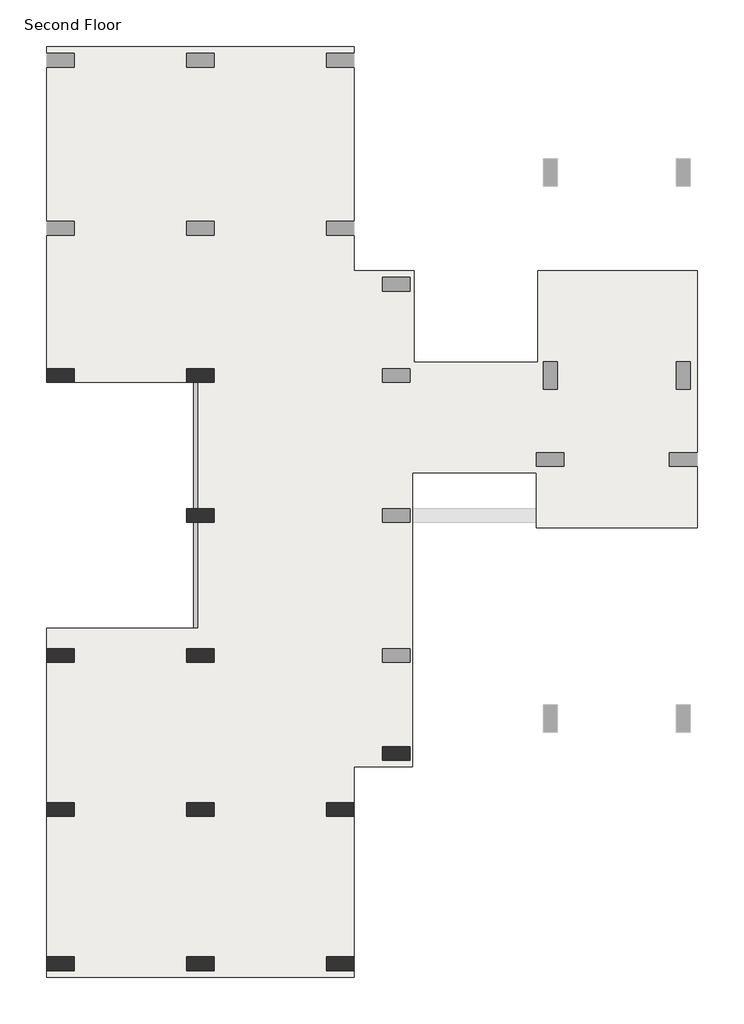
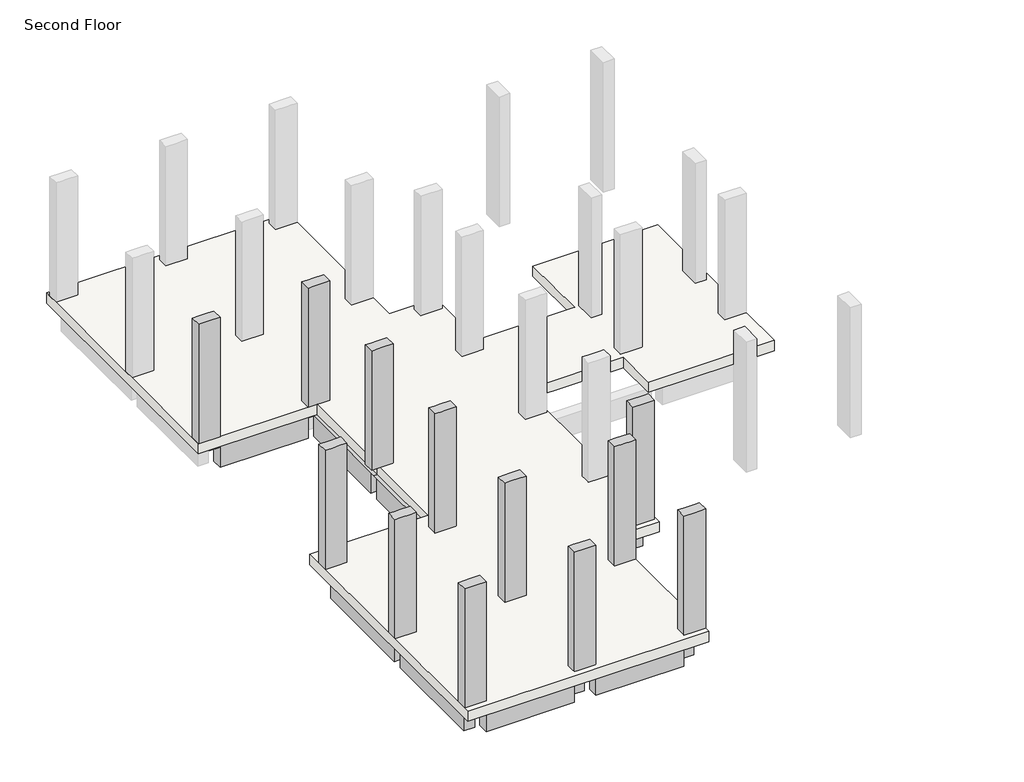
# One storey, part 1 of 2: 17 beams, 12 columns, 1 slab.
"""IFC4 building model written with IfcOpenShell, lengths in millimetres."""

import ifcopenshell
import ifcopenshell.guid

model = None  # the IFC model being written
_history = None  # IfcOwnerHistory: only IFC2X3 demands one
_inside = {}  # id of a spatial element -> (the spatial element, [elements in it])
_under = {}  # id of a project, library or spatial element -> (it, [spatial elements below it])
_declared = {}  # id of a project -> (the project, [libraries it declares])
_typed = {}  # id of a type object -> (the type object, [elements of that type])
_made_of = {}  # id of a material, layer set ... -> (it, [elements and type objects made of it])


def new_model(schema):
    """Start an empty IFC model of exactly this schema.

    Asked for "IFC4X3", IfcOpenShell would pick the latest addendum, in which some entities
    have other attributes; the version numbers below select the first issue.
    IFC2X3 requires an IfcOwnerHistory on every rooted entity: one is made here for all.
    """
    global model, _history
    if schema == "IFC4X3":
        model = ifcopenshell.file(schema_version=(4, 3, 0, 0))
    else:
        model = ifcopenshell.file(schema=schema)
    _inside.clear()
    _under.clear()
    _declared.clear()
    _typed.clear()
    _made_of.clear()
    _history = None
    if model.schema == "IFC2X3":
        org = make("IfcOrganization", Name="unknown")
        user = make(
            "IfcPersonAndOrganization",
            ThePerson=make("IfcPerson", FamilyName="unknown"),
            TheOrganization=org,
        )
        app = make(
            "IfcApplication",
            ApplicationDeveloper=org,
            Version="unknown",
            ApplicationFullName="unknown",
            ApplicationIdentifier="unknown",
        )
        _history = make(
            "IfcOwnerHistory",
            OwningUser=user,
            OwningApplication=app,
            ChangeAction="ADDED",
            CreationDate=0,
        )
    return model


def make(cls, **values):
    """One entity of the class cls with the attributes given. An attribute that is None is left unset."""
    return model.create_entity(
        cls, **{name: value for name, value in values.items() if value is not None}
    )


def rooted(cls, **values):
    """An entity with a GlobalId (a new one), such as an element, a storey or a relation."""
    return make(cls, GlobalId=ifcopenshell.guid.new(), OwnerHistory=_history, **values)


def si_unit(unit_type, name, prefix=None):
    """IfcSIUnit, for example si_unit("LENGTHUNIT", "METRE", prefix="MILLI")."""
    return make("IfcSIUnit", UnitType=unit_type, Prefix=prefix, Name=name)


def assignment(units):
    """IfcUnitAssignment: the units of a project."""
    return None if units is None else make("IfcUnitAssignment", Units=units)


def point(xyz):
    """IfcCartesianPoint."""
    return None if xyz is None else make("IfcCartesianPoint", Coordinates=xyz)


def direction(xyz):
    """IfcDirection."""
    return None if xyz is None else make("IfcDirection", DirectionRatios=xyz)


def frame(location, z_axis=None, x_axis=None):
    """IfcAxis2Placement3D, a coordinate frame: its origin and axes. An axis left out is left unset."""
    return make(
        "IfcAxis2Placement3D",
        Location=point(location),
        Axis=direction(z_axis),
        RefDirection=direction(x_axis),
    )


def origin():
    """The frame at (0, 0, 0) with its axes left unset."""
    return frame((0.0, 0.0, 0.0))


def place(relative_to, where):
    """IfcLocalPlacement: puts the frame where relative to a parent placement (None: the world)."""
    return make(
        "IfcLocalPlacement", PlacementRelTo=relative_to, RelativePlacement=where
    )


def context(
    kind, dimensions, precision=None, world=None, true_north=None, identifier=None
):
    """IfcGeometricRepresentationContext, for example the 3D "Model" context."""
    return make(
        "IfcGeometricRepresentationContext",
        ContextIdentifier=identifier,
        ContextType=kind,
        CoordinateSpaceDimension=dimensions,
        Precision=precision,
        WorldCoordinateSystem=world,
        TrueNorth=true_north,
    )


def project(units=None, contexts=None):
    """IfcProject with its units and contexts."""
    return rooted(
        "IfcProject",
        Name="project",
        RepresentationContexts=contexts,
        UnitsInContext=assignment(units),
    )


def spatial(cls, under=None, at=None, **own):
    """A site, building, storey or space (cls), placed at a placement, below another one or the project."""
    s = rooted(cls, ObjectPlacement=at, **own)
    if under is not None:
        _under.setdefault(under.id(), (under, []))[1].append(s)
    return s


def faces_of(points, faces, orient=None, outer=None):
    """IfcFace entities. A face is a list of loops; a loop is a list of indices into points, from 0.

    orient and outer hold one flag for each loop. By default every Orientation is true, the
    first loop of a face is its IfcFaceOuterBound and the others are IfcFaceBound.
    """
    made = []
    for i, loops in enumerate(faces):
        bounds = []
        for j, loop in enumerate(loops):
            is_outer = j == 0 if outer is None else outer[i][j]
            bounds.append(
                make(
                    "IfcFaceOuterBound" if is_outer else "IfcFaceBound",
                    Bound=make("IfcPolyLoop", Polygon=[points[k] for k in loop]),
                    Orientation=True if orient is None else orient[i][j],
                )
            )
        made.append(make("IfcFace", Bounds=bounds))
    return made


def faceted_brep(points, faces, orient=None, outer=None, voids=None):
    """IfcFacetedBrep: a solid bounded by flat faces; with voids (closed shells), ...WithVoids."""
    shared = [point(p) for p in points]
    hull = make("IfcClosedShell", CfsFaces=faces_of(shared, faces, orient, outer))
    if voids is None:
        return make("IfcFacetedBrep", Outer=hull)
    return make(
        "IfcFacetedBrepWithVoids",
        Outer=hull,
        Voids=[
            make(cls, CfsFaces=faces_of(shared, fs, o, b)) for cls, fs, o, b in voids
        ],
    )


def shape(context_of_items, identifier, shape_type, items):
    """IfcShapeRepresentation: the items that make up one representation, for example the "Body"."""
    return make(
        "IfcShapeRepresentation",
        ContextOfItems=context_of_items,
        RepresentationIdentifier=identifier,
        RepresentationType=shape_type,
        Items=items,
    )


def made_of(thing, what):
    """Note that an element or type object is made of a material, layer set ...; save() writes the relation."""
    if what is not None:
        _made_of.setdefault(what.id(), (what, []))[1].append(thing)
    return thing


def element(
    cls,
    number,
    at=None,
    inside=None,
    cuts=None,
    type_object=None,
    material=None,
    context=None,
    identifier="Body",
    shape_type=None,
    held_by="IfcProductDefinitionShape",
    body=None,
    shapes=None,
    **own,
):
    """One element of the class cls, such as IfcWall. Its Tag is "e" and its number.

    at: its placement. inside: the storey or other place that contains it. cuts: it is an
    opening in that element (IfcRelVoidsElement). A single representation is given by context,
    identifier, shape_type and body (its items); several are given by shapes. held_by: the class
    of the entity that holds the representations. save() writes the other relations.
    """
    e = rooted(cls, Tag="e%d" % number, ObjectPlacement=at, **own)
    if body is not None:
        shapes = [shape(context, identifier, shape_type, body)]
    if shapes is not None:
        e.Representation = make(held_by, Representations=shapes)
    if inside is not None:
        _inside.setdefault(inside.id(), (inside, []))[1].append(e)
    if cuts is not None:
        rooted(
            "IfcRelVoidsElement", RelatingBuildingElement=cuts, RelatedOpeningElement=e
        )
    if type_object is not None:
        _typed.setdefault(type_object.id(), (type_object, []))[1].append(e)
    return made_of(e, material)


def aggregate(whole, parts):
    """IfcRelAggregates: a whole, such as a stair, and the parts it consists of."""
    return rooted("IfcRelAggregates", RelatingObject=whole, RelatedObjects=parts)


def save(model, path):
    """Write the relations noted so far, then the file.

    IfcRelAggregates (storeys below a building ...), IfcRelContainedInSpatialStructure (elements
    in a storey), IfcRelDefinesByType, IfcRelAssociatesMaterial and IfcRelDeclares: one each for
    every whole, place, type object, material and project.
    """
    for whole, parts in _under.values():
        aggregate(whole, parts)
    for where, things in _inside.values():
        rooted(
            "IfcRelContainedInSpatialStructure",
            RelatedElements=things,
            RelatingStructure=where,
        )
    for kind, things in _typed.values():
        rooted("IfcRelDefinesByType", RelatedObjects=things, RelatingType=kind)
    for what, things in _made_of.values():
        rooted("IfcRelAssociatesMaterial", RelatedObjects=things, RelatingMaterial=what)
    for by, libraries in _declared.values():
        rooted("IfcRelDeclares", RelatingContext=by, RelatedDefinitions=libraries)
    model.write(path)


model = new_model("IFC4")

# Units and contexts
model_context = context("Model", 3, world=origin())
ifc_project = project(units=[si_unit("LENGTHUNIT", "METRE", prefix="MILLI")], contexts=[model_context])

# Site, building, storey
site = spatial("IfcSite", under=ifc_project)
building = spatial("IfcBuilding", under=site)
storey = spatial("IfcBuildingStorey", under=building, Name="Second Floor", Elevation=3810.0)

# Beams
placement = place(None, origin())
element("IfcBeam", 1, ObjectType="M_Concrete-Rectangular Beam : 300 x 600mm", at=placement, inside=storey, context=model_context, shape_type="Brep", body=[
    faceted_brep([(-9933.3472303, 7869.016665, 3510.0), (-9933.3472303, 7719.016665, 3510.0), (-9933.3472303, 4821.016665, 3510.0), (-9783.3472303, 4821.016665, 3510.0), (-9783.3472303, 4971.016665, 3510.0), (-9633.3472303, 4971.016665, 3510.0), (-9633.3472303, 7719.016665, 3510.0), (-9633.3472303, 7869.016665, 3510.0), (-9783.3472303, 7869.016665, 3510.0), (-9633.3472303, 7719.016665, 2910.0), (-9633.3472303, 7719.016665, 3505.2), (-9633.3472303, 7869.016665, 3505.2), (-9633.3472303, 4971.016665, 2910.0), (-9933.3472303, 4971.016665, 2910.0), (-9933.3472303, 7719.016665, 2910.0), (-9933.3472303, 7869.016665, 3505.2), (-9933.3472303, 7719.016665, 3505.2), (-9933.3472303, 4971.016665, 3505.2), (-9933.3472303, 4821.016665, 3505.2), (-9783.3472303, 4971.016665, 3505.2), (-9783.3472303, 7869.016665, 3505.2), (-9783.3472303, 4821.016665, 3505.2)], [[[0, 1, 2, 3, 4, 5, 6, 7, 8]], [[9, 10, 11, 7, 6, 5, 12]], [[12, 13, 14, 9]], [[2, 1, 0, 15, 16, 14, 13, 17, 18]], [[5, 4, 19, 17, 13, 12]], [[16, 10, 9, 14]], [[10, 16, 15, 20, 11]], [[17, 19, 21, 18]], [[0, 8, 7, 11, 20, 15]], [[3, 2, 18, 21]], [[4, 3, 21, 19]]]),
])
element("IfcBeam", 2, ObjectType="M_Concrete-Rectangular Beam : 300 x 600mm", at=placement, inside=storey, context=model_context, shape_type="Brep", body=[
    faceted_brep([(-12681.3472303, 8019.016665, 3510.0), (-12681.3472303, 7869.016665, 3510.0), (-12831.3472303, 7869.016665, 3510.0), (-12831.3472303, 7719.016665, 3510.0), (-9933.3472303, 7719.016665, 3510.0), (-9933.3472303, 7869.016665, 3510.0), (-9933.3472303, 8019.016665, 3510.0), (-12531.3472303, 7719.016665, 3505.2), (-12531.3472303, 7719.016665, 2910.0), (-10083.3472303, 7719.016665, 2910.0), (-10083.3472303, 7719.016665, 3505.2), (-9933.3472303, 7719.016665, 3505.2), (-12831.3472303, 7719.016665, 3505.2), (-12531.3472303, 8019.016665, 2910.0), (-10083.3472303, 8019.016665, 2910.0), (-12681.3472303, 8019.016665, 3505.2), (-9933.3472303, 8019.016665, 3505.2), (-10083.3472303, 8019.016665, 3505.2), (-12531.3472303, 8019.016665, 3505.2), (-9933.3472303, 7869.016665, 3505.2), (-12681.3472303, 7869.016665, 3505.2), (-12831.3472303, 7869.016665, 3505.2)], [[[0, 1, 2, 3, 4, 5, 6]], [[7, 8, 9, 10, 11, 4, 3, 12]], [[8, 13, 14, 9]], [[15, 0, 6, 16, 17, 14, 13, 18]], [[6, 5, 4, 11, 19, 16]], [[1, 0, 15, 20]], [[7, 18, 13, 8]], [[18, 7, 12, 21, 20, 15]], [[17, 10, 9, 14]], [[10, 17, 16, 19, 11]], [[3, 2, 21, 12]], [[2, 1, 20, 21]]]),
])
element("IfcBeam", 3, ObjectType="M_Concrete-Rectangular Beam : 300 x 600mm", at=placement, inside=storey, context=model_context, shape_type="Brep", body=[
    faceted_brep([(-9783.3472303, 1623.016665, 3510.0), (-9633.3472303, 1623.016665, 3510.0), (-5666.3472303, 1623.016665, 3510.0), (-5516.3472303, 1623.016665, 3510.0), (-5516.3472303, 1773.016665, 3510.0), (-5666.3472303, 1773.016665, 3510.0), (-5666.3472303, 1923.016665, 3510.0), (-9633.3472303, 1923.016665, 3510.0), (-9783.3472303, 1923.016665, 3510.0), (-9783.3472303, 1773.016665, 3510.0), (-9483.3472303, 1923.016665, 2910.0), (-9483.3472303, 1923.016665, 3505.2), (-9783.3472303, 1923.016665, 3505.2), (-5666.3472303, 1923.016665, 3505.2), (-5816.3472303, 1923.016665, 3505.2), (-5816.3472303, 1923.016665, 2910.0), (-9483.3472303, 1623.016665, 2910.0), (-5816.3472303, 1623.016665, 2910.0), (-9783.3472303, 1623.016665, 3505.2), (-9483.3472303, 1623.016665, 3505.2), (-5816.3472303, 1623.016665, 3505.2), (-5516.3472303, 1623.016665, 3505.2), (-5666.3472303, 1773.016665, 3505.2), (-9783.3472303, 1773.016665, 3505.2), (-5516.3472303, 1773.016665, 3505.2)], [[[0, 1, 2, 3, 4, 5, 6, 7, 8, 9]], [[10, 11, 12, 8, 7, 6, 13, 14, 15]], [[16, 10, 15, 17]], [[3, 2, 1, 0, 18, 19, 16, 17, 20, 21]], [[6, 5, 22, 13]], [[19, 11, 10, 16]], [[11, 19, 18, 23, 12]], [[14, 20, 17, 15]], [[20, 14, 13, 22, 24, 21]], [[0, 9, 8, 12, 23, 18]], [[4, 3, 21, 24]], [[5, 4, 24, 22]]]),
])
element("IfcBeam", 4, ObjectType="M_Concrete-Rectangular Beam : 300 x 600mm", at=placement, inside=storey, context=model_context, shape_type="Brep", body=[
    faceted_brep([(-9933.3472303, 4821.016665, 3510.0), (-9933.3472303, 1923.016665, 3510.0), (-9933.3472303, 1773.016665, 3510.0), (-9783.3472303, 1773.016665, 3510.0), (-9783.3472303, 1923.016665, 3510.0), (-9633.3472303, 1923.016665, 3510.0), (-9633.3472303, 4671.016665, 3510.0), (-9783.3472303, 4671.016665, 3510.0), (-9783.3472303, 4821.016665, 3510.0), (-9633.3472303, 1923.016665, 2910.0), (-9633.3472303, 4671.016665, 2910.0), (-9933.3472303, 1923.016665, 2910.0), (-9933.3472303, 4671.016665, 2910.0), (-9933.3472303, 4821.016665, 3505.2), (-9933.3472303, 4671.016665, 3505.2), (-9933.3472303, 1923.016665, 3505.2), (-9933.3472303, 1773.016665, 3505.2), (-9783.3472303, 4671.016665, 3505.2), (-9783.3472303, 1923.016665, 3505.2), (-9783.3472303, 4821.016665, 3505.2), (-9783.3472303, 1773.016665, 3505.2)], [[[0, 1, 2, 3, 4, 5, 6, 7, 8]], [[6, 5, 9, 10]], [[9, 11, 12, 10]], [[2, 1, 0, 13, 14, 12, 11, 15, 16]], [[7, 6, 10, 12, 14, 17]], [[5, 4, 18, 15, 11, 9]], [[17, 14, 13, 19]], [[15, 18, 20, 16]], [[0, 8, 19, 13]], [[3, 2, 16, 20]], [[8, 7, 17, 19]], [[4, 3, 20, 18]]]),
])
element("IfcBeam", 5, ObjectType="M_Concrete-Rectangular Beam : 300 x 600mm", at=placement, inside=storey, context=model_context, shape_type="Brep", body=[
    faceted_brep([(-5366.3472303, -360.983335, 3510.0), (-5366.3472303, 1773.016665, 3510.0), (-5516.3472303, 1773.016665, 3510.0), (-5516.3472303, 1623.016665, 3510.0), (-5666.3472303, 1623.016665, 3510.0), (-5666.3472303, -210.983335, 3510.0), (-5666.3472303, -360.983335, 3510.0), (-5516.3472303, -360.983335, 3510.0), (-5666.3472303, 1623.016665, 2910.0), (-5666.3472303, -210.983335, 2910.0), (-5666.3472303, -210.983335, 3505.2), (-5666.3472303, -360.983335, 3505.2), (-5366.3472303, 1623.016665, 2910.0), (-5366.3472303, -210.983335, 2910.0), (-5366.3472303, -360.983335, 3505.2), (-5366.3472303, -210.983335, 3505.2), (-5366.3472303, 1623.016665, 3505.2), (-5366.3472303, 1773.016665, 3505.2), (-5516.3472303, 1623.016665, 3505.2), (-5516.3472303, 1773.016665, 3505.2), (-5516.3472303, -360.983335, 3505.2)], [[[0, 1, 2, 3, 4, 5, 6, 7]], [[6, 5, 4, 8, 9, 10, 11]], [[8, 12, 13, 9]], [[1, 0, 14, 15, 13, 12, 16, 17]], [[4, 3, 18, 16, 12, 8]], [[16, 18, 19, 17]], [[15, 10, 9, 13]], [[10, 15, 14, 20, 11]], [[2, 1, 17, 19]], [[0, 7, 6, 11, 20, 14]], [[3, 2, 19, 18]]]),
])
element("IfcBeam", 6, ObjectType="M_Concrete-Rectangular Beam : 300 x 600mm", at=placement, inside=storey, context=model_context, shape_type="Brep", body=[
    faceted_brep([(-6885.3472303, -510.983335, 3510.0), (-6585.3472303, -510.983335, 3510.0), (-5516.3472303, -510.983335, 3510.0), (-5516.3472303, -360.983335, 3510.0), (-5666.3472303, -360.983335, 3510.0), (-5666.3472303, -210.983335, 3510.0), (-6885.3472303, -210.983335, 3510.0), (-6885.3472303, -210.983335, 2910.0), (-5666.3472303, -210.983335, 3505.2), (-5816.3472303, -210.983335, 3505.2), (-5816.3472303, -210.983335, 2910.0), (-6885.3472303, -510.983335, 2910.0), (-5816.3472303, -510.983335, 2910.0), (-6585.3472303, -510.983335, 2910.0), (-5816.3472303, -510.983335, 3505.2), (-5516.3472303, -510.983335, 3505.2), (-5516.3472303, -360.983335, 3505.2), (-5666.3472303, -360.983335, 3505.2)], [[[0, 1, 2, 3, 4, 5, 6]], [[7, 6, 5, 8, 9, 10]], [[11, 7, 10, 12, 13]], [[2, 1, 0, 11, 13, 12, 14, 15]], [[3, 2, 15, 16]], [[0, 6, 7, 11]], [[5, 4, 17, 8]], [[4, 3, 16, 17]], [[9, 14, 12, 10]], [[14, 9, 8, 17, 16, 15]]]),
])
element("IfcBeam", 7, ObjectType="M_Concrete-Rectangular Beam : 300 x 600mm", at=placement, inside=storey, context=model_context, shape_type="Brep", body=[
    faceted_brep([(-6885.3472303, -1579.983335, 3510.0), (-6735.3472303, -1579.983335, 3510.0), (-6585.3472303, -1579.983335, 3510.0), (-6585.3472303, -510.983335, 3510.0), (-6885.3472303, -510.983335, 3510.0), (-6885.3472303, -1429.983335, 3510.0), (-6885.3472303, -510.983335, 2910.0), (-6885.3472303, -1429.983335, 2910.0), (-6885.3472303, -1429.983335, 3505.2), (-6885.3472303, -1579.983335, 3505.2), (-6585.3472303, -510.983335, 2910.0), (-6585.3472303, -1429.983335, 2910.0), (-6585.3472303, -1579.983335, 3505.2), (-6585.3472303, -1429.983335, 3505.2), (-6735.3472303, -1579.983335, 3505.2)], [[[0, 1, 2, 3, 4, 5]], [[0, 5, 4, 6, 7, 8, 9]], [[6, 10, 11, 7]], [[3, 2, 12, 13, 11, 10]], [[2, 1, 0, 9, 14, 12]], [[4, 3, 10, 6]], [[13, 8, 7, 11]], [[8, 13, 12, 14, 9]]]),
])
element("IfcBeam", 8, ObjectType="M_Concrete-Rectangular Beam : 300 x 600mm", at=placement, inside=storey, context=model_context, shape_type="Brep", body=[
    faceted_brep([(-6585.3472303, -4932.983335, 3510.0), (-6585.3472303, -1579.983335, 3510.0), (-6735.3472303, -1579.983335, 3510.0), (-6735.3472303, -1729.983335, 3510.0), (-6885.3472303, -1729.983335, 3510.0), (-6885.3472303, -4782.983335, 3510.0), (-6885.3472303, -4932.983335, 3510.0), (-6735.3472303, -4932.983335, 3510.0), (-6885.3472303, -1729.983335, 2910.0), (-6885.3472303, -4782.983335, 2910.0), (-6885.3472303, -4782.983335, 3505.2), (-6885.3472303, -4932.983335, 3505.2), (-6585.3472303, -1729.983335, 2910.0), (-6585.3472303, -4782.983335, 2910.0), (-6585.3472303, -4932.983335, 3505.2), (-6585.3472303, -4782.983335, 3505.2), (-6585.3472303, -1729.983335, 3505.2), (-6585.3472303, -1579.983335, 3505.2), (-6735.3472303, -1579.983335, 3505.2), (-6735.3472303, -4932.983335, 3505.2), (-6735.3472303, -1729.983335, 3505.2)], [[[0, 1, 2, 3, 4, 5, 6, 7]], [[4, 8, 9, 10, 11, 6, 5]], [[9, 8, 12, 13]], [[1, 0, 14, 15, 13, 12, 16, 17]], [[1, 17, 18, 2]], [[0, 7, 6, 11, 19, 14]], [[4, 3, 20, 16, 12, 8]], [[17, 16, 20, 18]], [[15, 10, 9, 13]], [[10, 15, 14, 19, 11]], [[20, 3, 2, 18]]]),
])
element("IfcBeam", 9, ObjectType="M_Concrete-Rectangular Beam : 300 x 600mm", at=placement, inside=storey, context=model_context, shape_type="Brep", body=[
    faceted_brep([(-9783.3472303, -5082.983335, 3510.0), (-6735.3472303, -5082.983335, 3510.0), (-6735.3472303, -4932.983335, 3510.0), (-6885.3472303, -4932.983335, 3510.0), (-6885.3472303, -4782.983335, 3510.0), (-9633.3472303, -4782.983335, 3510.0), (-9783.3472303, -4782.983335, 3510.0), (-9783.3472303, -4932.983335, 3510.0), (-9483.3472303, -4782.983335, 2910.0), (-9483.3472303, -4782.983335, 3505.2), (-9783.3472303, -4782.983335, 3505.2), (-6885.3472303, -4782.983335, 3505.2), (-7035.3472303, -4782.983335, 3505.2), (-7035.3472303, -4782.983335, 2910.0), (-9483.3472303, -5082.983335, 2910.0), (-7035.3472303, -5082.983335, 2910.0), (-9783.3472303, -5082.983335, 3505.2), (-9483.3472303, -5082.983335, 3505.2), (-7035.3472303, -5082.983335, 3505.2), (-6735.3472303, -5082.983335, 3505.2), (-6885.3472303, -4932.983335, 3505.2), (-9783.3472303, -4932.983335, 3505.2), (-6735.3472303, -4932.983335, 3505.2)], [[[0, 1, 2, 3, 4, 5, 6, 7]], [[8, 9, 10, 6, 5, 4, 11, 12, 13]], [[14, 8, 13, 15]], [[1, 0, 16, 17, 14, 15, 18, 19]], [[4, 3, 20, 11]], [[17, 9, 8, 14]], [[9, 17, 16, 21, 10]], [[12, 18, 15, 13]], [[18, 12, 11, 20, 22, 19]], [[0, 7, 6, 10, 21, 16]], [[2, 1, 19, 22]], [[3, 2, 22, 20]]]),
])
element("IfcBeam", 10, ObjectType="M_Concrete-Rectangular Beam : 300 x 600mm", at=placement, inside=storey, context=model_context, shape_type="Brep", body=[
    faceted_brep([(-9933.3472303, -1579.983335, 3510.0), (-9933.3472303, -1729.983335, 3510.0), (-9933.3472303, -4782.983335, 3510.0), (-9933.3472303, -4932.983335, 3510.0), (-9783.3472303, -4932.983335, 3510.0), (-9783.3472303, -4782.983335, 3510.0), (-9633.3472303, -4782.983335, 3510.0), (-9633.3472303, -1729.983335, 3510.0), (-9633.3472303, -1579.983335, 3510.0), (-9783.3472303, -1579.983335, 3510.0), (-9633.3472303, -4782.983335, 2910.0), (-9633.3472303, -1729.983335, 2910.0), (-9633.3472303, -1729.983335, 3505.2), (-9633.3472303, -1579.983335, 3505.2), (-9933.3472303, -4782.983335, 2910.0), (-9933.3472303, -1729.983335, 2910.0), (-9933.3472303, -1579.983335, 3505.2), (-9933.3472303, -1729.983335, 3505.2), (-9933.3472303, -4782.983335, 3505.2), (-9933.3472303, -4932.983335, 3505.2), (-9783.3472303, -1579.983335, 3505.2), (-9783.3472303, -4932.983335, 3505.2), (-9783.3472303, -4782.983335, 3505.2)], [[[0, 1, 2, 3, 4, 5, 6, 7, 8, 9]], [[8, 7, 6, 10, 11, 12, 13]], [[11, 10, 14, 15]], [[3, 2, 1, 0, 16, 17, 15, 14, 18, 19]], [[0, 9, 8, 13, 20, 16]], [[4, 3, 19, 21]], [[6, 5, 22, 18, 14, 10]], [[5, 4, 21, 22]], [[17, 12, 11, 15]], [[12, 17, 16, 20, 13]], [[18, 22, 21, 19]]]),
])
element("IfcBeam", 11, ObjectType="M_Concrete-Rectangular Beam : 300 x 600mm", at=placement, inside=storey, context=model_context, shape_type="Brep", body=[
    faceted_brep([(-6885.3472303, -1579.983335, 3510.0), (-6885.3472303, -1429.983335, 3510.0), (-9633.3472303, -1429.983335, 3510.0), (-9783.3472303, -1429.983335, 3510.0), (-9783.3472303, -1579.983335, 3510.0), (-9633.3472303, -1579.983335, 3510.0), (-9633.3472303, -1729.983335, 3510.0), (-6885.3472303, -1729.983335, 3510.0), (-6735.3472303, -1729.983335, 3510.0), (-6735.3472303, -1579.983335, 3510.0), (-9633.3472303, -1729.983335, 3505.2), (-9483.3472303, -1729.983335, 3505.2), (-9483.3472303, -1729.983335, 2910.0), (-7035.3472303, -1729.983335, 2910.0), (-7035.3472303, -1729.983335, 3505.2), (-6735.3472303, -1729.983335, 3505.2), (-9483.3472303, -1429.983335, 2910.0), (-7035.3472303, -1429.983335, 2910.0), (-9483.3472303, -1429.983335, 3505.2), (-9783.3472303, -1429.983335, 3505.2), (-6885.3472303, -1429.983335, 3505.2), (-7035.3472303, -1429.983335, 3505.2), (-6885.3472303, -1579.983335, 3505.2), (-9633.3472303, -1579.983335, 3505.2), (-9783.3472303, -1579.983335, 3505.2), (-6735.3472303, -1579.983335, 3505.2)], [[[0, 1, 2, 3, 4, 5, 6, 7, 8, 9]], [[6, 10, 11, 12, 13, 14, 15, 8, 7]], [[12, 16, 17, 13]], [[16, 18, 19, 3, 2, 1, 20, 21, 17]], [[1, 0, 22, 20]], [[6, 5, 23, 10]], [[11, 18, 16, 12]], [[18, 11, 10, 23, 24, 19]], [[21, 14, 13, 17]], [[14, 21, 20, 22, 25, 15]], [[4, 3, 19, 24]], [[9, 8, 15, 25]], [[0, 9, 25, 22]], [[5, 4, 24, 23]]]),
])
element("IfcBeam", 12, ObjectType="M_Concrete-Rectangular Beam : 300 x 600mm", at=placement, inside=storey, context=model_context, shape_type="Brep", body=[
    faceted_brep([(-9933.3472303, 1773.016665, 3510.0), (-9933.3472303, 1623.016665, 3510.0), (-9933.3472303, -1429.983335, 3510.0), (-9933.3472303, -1579.983335, 3510.0), (-9783.3472303, -1579.983335, 3510.0), (-9783.3472303, -1429.983335, 3510.0), (-9633.3472303, -1429.983335, 3510.0), (-9633.3472303, 1623.016665, 3510.0), (-9783.3472303, 1623.016665, 3510.0), (-9783.3472303, 1773.016665, 3510.0), (-9633.3472303, -1429.983335, 2910.0), (-9633.3472303, 1623.016665, 2910.0), (-9933.3472303, -1429.983335, 2910.0), (-9933.3472303, 1623.016665, 2910.0), (-9933.3472303, 1773.016665, 3505.2), (-9933.3472303, 1623.016665, 3505.2), (-9933.3472303, -1429.983335, 3505.2), (-9933.3472303, -1579.983335, 3505.2), (-9783.3472303, 1773.016665, 3505.2), (-9783.3472303, -1579.983335, 3505.2), (-9783.3472303, 1623.016665, 3505.2), (-9783.3472303, -1429.983335, 3505.2)], [[[0, 1, 2, 3, 4, 5, 6, 7, 8, 9]], [[7, 6, 10, 11]], [[11, 10, 12, 13]], [[3, 2, 1, 0, 14, 15, 13, 12, 16, 17]], [[0, 9, 18, 14]], [[4, 3, 17, 19]], [[8, 7, 11, 13, 15, 20]], [[9, 8, 20, 18]], [[6, 5, 21, 16, 12, 10]], [[5, 4, 19, 21]], [[20, 15, 14, 18]], [[16, 21, 19, 17]]]),
])
element("IfcBeam", 13, ObjectType="M_Concrete-Rectangular Beam : 300 x 600mm", at=placement, inside=storey, context=model_context, shape_type="Brep", body=[
    faceted_brep([(-12831.3472303, -5082.983335, 3510.0), (-9783.3472303, -5082.983335, 3510.0), (-9783.3472303, -4932.983335, 3510.0), (-9933.3472303, -4932.983335, 3510.0), (-9933.3472303, -4782.983335, 3510.0), (-12681.3472303, -4782.983335, 3510.0), (-12831.3472303, -4782.983335, 3510.0), (-12831.3472303, -4932.983335, 3510.0), (-12531.3472303, -4782.983335, 2910.0), (-12531.3472303, -4782.983335, 3505.2), (-12831.3472303, -4782.983335, 3505.2), (-9933.3472303, -4782.983335, 3505.2), (-10083.3472303, -4782.983335, 3505.2), (-10083.3472303, -4782.983335, 2910.0), (-12531.3472303, -5082.983335, 2910.0), (-10083.3472303, -5082.983335, 2910.0), (-12831.3472303, -5082.983335, 3505.2), (-12531.3472303, -5082.983335, 3505.2), (-10083.3472303, -5082.983335, 3505.2), (-9783.3472303, -5082.983335, 3505.2), (-9933.3472303, -4932.983335, 3505.2), (-12831.3472303, -4932.983335, 3505.2), (-9783.3472303, -4932.983335, 3505.2)], [[[0, 1, 2, 3, 4, 5, 6, 7]], [[8, 9, 10, 6, 5, 4, 11, 12, 13]], [[14, 8, 13, 15]], [[1, 0, 16, 17, 14, 15, 18, 19]], [[4, 3, 20, 11]], [[17, 9, 8, 14]], [[9, 17, 16, 21, 10]], [[12, 18, 15, 13]], [[18, 12, 11, 20, 22, 19]], [[0, 7, 6, 10, 21, 16]], [[2, 1, 19, 22]], [[3, 2, 22, 20]]]),
])
element("IfcBeam", 14, ObjectType="M_Concrete-Rectangular Beam : 300 x 600mm", at=placement, inside=storey, context=model_context, shape_type="Brep", body=[
    faceted_brep([(-12981.3472303, -1579.983335, 3510.0), (-12981.3472303, -4932.983335, 3510.0), (-12831.3472303, -4932.983335, 3510.0), (-12831.3472303, -4782.983335, 3510.0), (-12681.3472303, -4782.983335, 3510.0), (-12681.3472303, -1729.983335, 3510.0), (-12681.3472303, -1579.983335, 3510.0), (-12831.3472303, -1579.983335, 3510.0), (-12681.3472303, -4782.983335, 2910.0), (-12681.3472303, -1729.983335, 2910.0), (-12681.3472303, -1729.983335, 3505.2), (-12681.3472303, -1579.983335, 3505.2), (-12981.3472303, -4782.983335, 2910.0), (-12981.3472303, -1729.983335, 2910.0), (-12981.3472303, -1579.983335, 3505.2), (-12981.3472303, -1729.983335, 3505.2), (-12981.3472303, -4782.983335, 3505.2), (-12981.3472303, -4932.983335, 3505.2), (-12831.3472303, -1579.983335, 3505.2), (-12831.3472303, -4932.983335, 3505.2), (-12831.3472303, -4782.983335, 3505.2)], [[[0, 1, 2, 3, 4, 5, 6, 7]], [[6, 5, 4, 8, 9, 10, 11]], [[9, 8, 12, 13]], [[1, 0, 14, 15, 13, 12, 16, 17]], [[0, 7, 6, 11, 18, 14]], [[2, 1, 17, 19]], [[4, 3, 20, 16, 12, 8]], [[3, 2, 19, 20]], [[15, 10, 9, 13]], [[10, 15, 14, 18, 11]], [[16, 20, 19, 17]]]),
])
element("IfcBeam", 15, ObjectType="M_Concrete-Rectangular Beam : 300 x 600mm", at=placement, inside=storey, context=model_context, shape_type="Brep", body=[
    faceted_brep([(-12681.3472303, -1579.983335, 3510.0), (-12681.3472303, -1729.983335, 3510.0), (-9933.3472303, -1729.983335, 3510.0), (-9933.3472303, -1579.983335, 3510.0), (-9933.3472303, -1429.983335, 3510.0), (-12681.3472303, -1429.983335, 3510.0), (-12831.3472303, -1429.983335, 3510.0), (-12831.3472303, -1579.983335, 3510.0), (-12681.3472303, -1729.983335, 3505.2), (-12531.3472303, -1729.983335, 3505.2), (-12531.3472303, -1729.983335, 2910.0), (-10083.3472303, -1729.983335, 2910.0), (-10083.3472303, -1729.983335, 3505.2), (-9933.3472303, -1729.983335, 3505.2), (-12531.3472303, -1429.983335, 2910.0), (-10083.3472303, -1429.983335, 2910.0), (-12531.3472303, -1429.983335, 3505.2), (-12831.3472303, -1429.983335, 3505.2), (-9933.3472303, -1429.983335, 3505.2), (-10083.3472303, -1429.983335, 3505.2), (-9933.3472303, -1579.983335, 3505.2), (-12681.3472303, -1579.983335, 3505.2), (-12831.3472303, -1579.983335, 3505.2)], [[[0, 1, 2, 3, 4, 5, 6, 7]], [[1, 8, 9, 10, 11, 12, 13, 2]], [[10, 14, 15, 11]], [[14, 16, 17, 6, 5, 4, 18, 19, 15]], [[4, 3, 2, 13, 20, 18]], [[1, 0, 21, 8]], [[9, 16, 14, 10]], [[16, 9, 8, 21, 22, 17]], [[19, 12, 11, 15]], [[12, 19, 18, 20, 13]], [[7, 6, 17, 22]], [[0, 7, 22, 21]]]),
])
element("IfcBeam", 16, ObjectType="M_Concrete-Rectangular Beam : 300 x 600mm", at=placement, inside=storey, context=model_context, shape_type="Brep", body=[
    faceted_brep([(-12981.3472303, 1773.016665, 3510.0), (-12981.3472303, -1579.983335, 3510.0), (-12831.3472303, -1579.983335, 3510.0), (-12831.3472303, -1429.983335, 3510.0), (-12681.3472303, -1429.983335, 3510.0), (-12681.3472303, 1623.016665, 3510.0), (-12681.3472303, 1773.016665, 3510.0), (-12831.3472303, 1773.016665, 3510.0), (-12681.3472303, -1429.983335, 2910.0), (-12681.3472303, 1623.016665, 2910.0), (-12681.3472303, 1623.016665, 3505.2), (-12681.3472303, 1773.016665, 3505.2), (-12981.3472303, -1429.983335, 2910.0), (-12981.3472303, 1623.016665, 2910.0), (-12981.3472303, 1773.016665, 3505.2), (-12981.3472303, 1623.016665, 3505.2), (-12981.3472303, -1429.983335, 3505.2), (-12981.3472303, -1579.983335, 3505.2), (-12831.3472303, 1773.016665, 3505.2), (-12831.3472303, -1579.983335, 3505.2), (-12831.3472303, -1429.983335, 3505.2)], [[[0, 1, 2, 3, 4, 5, 6, 7]], [[6, 5, 4, 8, 9, 10, 11]], [[9, 8, 12, 13]], [[1, 0, 14, 15, 13, 12, 16, 17]], [[0, 7, 6, 11, 18, 14]], [[2, 1, 17, 19]], [[4, 3, 20, 16, 12, 8]], [[3, 2, 19, 20]], [[15, 10, 9, 13]], [[10, 15, 14, 18, 11]], [[16, 20, 19, 17]]]),
])
element("IfcBeam", 17, ObjectType="M_Concrete-Rectangular Beam : 300 x 600mm", at=placement, inside=storey, context=model_context, shape_type="Brep", body=[
    faceted_brep([(-12681.3472303, 1773.016665, 3510.0), (-12681.3472303, 1623.016665, 3510.0), (-9933.3472303, 1623.016665, 3510.0), (-9933.3472303, 1773.016665, 3510.0), (-9933.3472303, 1923.016665, 3510.0), (-12831.3472303, 1923.016665, 3510.0), (-12831.3472303, 1773.016665, 3510.0), (-12681.3472303, 1623.016665, 3505.2), (-12531.3472303, 1623.016665, 3505.2), (-12531.3472303, 1623.016665, 2910.0), (-10083.3472303, 1623.016665, 2910.0), (-10083.3472303, 1623.016665, 3505.2), (-9933.3472303, 1623.016665, 3505.2), (-12531.3472303, 1923.016665, 2910.0), (-10083.3472303, 1923.016665, 2910.0), (-12531.3472303, 1923.016665, 3505.2), (-12831.3472303, 1923.016665, 3505.2), (-9933.3472303, 1923.016665, 3505.2), (-10083.3472303, 1923.016665, 3505.2), (-9933.3472303, 1773.016665, 3505.2), (-12681.3472303, 1773.016665, 3505.2), (-12831.3472303, 1773.016665, 3505.2)], [[[0, 1, 2, 3, 4, 5, 6]], [[1, 7, 8, 9, 10, 11, 12, 2]], [[9, 13, 14, 10]], [[13, 15, 16, 5, 4, 17, 18, 14]], [[4, 3, 2, 12, 19, 17]], [[1, 0, 20, 7]], [[8, 15, 13, 9]], [[15, 8, 7, 20, 21, 16]], [[18, 11, 10, 14]], [[11, 18, 17, 19, 12]], [[6, 5, 16, 21]], [[0, 6, 21, 20]]]),
])

# Columns
element("IfcColumn", 18, ObjectType="M_Concrete-Rectangular-Column : 300 x 600mm", at=placement, inside=storey, context=model_context, shape_type="Brep", body=[
    faceted_brep([(-13131.3472303, 8019.016665, 3810.0), (-12531.3472303, 8019.016665, 3810.0), (-12531.3472303, 7719.016665, 3810.0), (-13131.3472303, 7719.016665, 3810.0), (-13131.3472303, 7721.016665, 3810.0), (-13131.3472303, 8019.016665, 7315.2), (-12981.3472303, 8019.016665, 7315.2), (-12681.3472303, 8019.016665, 7315.2), (-12531.3472303, 8019.016665, 7315.2), (-12531.3472303, 8019.016665, 6720.0), (-12531.3472303, 7719.016665, 7315.2), (-12531.3472303, 7719.016665, 6720.0), (-12831.3472303, 7719.016665, 7315.2), (-13131.3472303, 7719.016665, 7315.2)], [[[0, 1, 2, 3, 4]], [[5, 6, 7, 8, 9, 1, 0]], [[8, 10, 11, 2, 1, 9]], [[10, 12, 13, 3, 2, 11]], [[13, 5, 0, 4, 3]], [[5, 13, 12, 10, 8, 7, 6]]]),
])
element("IfcColumn", 19, ObjectType="M_Concrete-Rectangular-Column : 300 x 600mm", at=placement, inside=storey, context=model_context, shape_type="Brep", body=[
    faceted_brep([(-10083.3472303, 8019.016665, 3810.0), (-9483.3472303, 8019.016665, 3810.0), (-9483.3472303, 7719.016665, 3810.0), (-10083.3472303, 7719.016665, 3810.0), (-10083.3472303, 8019.016665, 7315.2), (-9933.3472303, 8019.016665, 7315.2), (-9783.3472303, 8019.016665, 7315.2), (-9483.3472303, 8019.016665, 7315.2), (-9483.3472303, 8019.016665, 6720.0), (-10083.3472303, 8019.016665, 6720.0), (-9483.3472303, 7719.016665, 7315.2), (-9483.3472303, 7719.016665, 6720.0), (-9633.3472303, 7719.016665, 7315.2), (-9933.3472303, 7719.016665, 7315.2), (-10083.3472303, 7719.016665, 7315.2), (-10083.3472303, 7719.016665, 6720.0)], [[[0, 1, 2, 3]], [[4, 5, 6, 7, 8, 1, 0, 9]], [[7, 10, 11, 2, 1, 8]], [[10, 12, 13, 14, 15, 3, 2, 11]], [[14, 4, 9, 0, 3, 15]], [[4, 14, 13, 12, 10, 7, 6, 5]]]),
])
element("IfcColumn", 20, ObjectType="M_Concrete-Rectangular-Column : 300 x 600mm", at=placement, inside=storey, context=model_context, shape_type="Brep", body=[
    faceted_brep([(-10083.3472303, 4971.016665, 3810.0), (-9483.3472303, 4971.016665, 3810.0), (-9483.3472303, 4671.016665, 3810.0), (-10083.3472303, 4671.016665, 3810.0), (-10083.3472303, 4971.016665, 7315.2), (-9933.3472303, 4971.016665, 7315.2), (-9783.3472303, 4971.016665, 7315.2), (-9483.3472303, 4971.016665, 7315.2), (-9483.3472303, 4971.016665, 6720.0), (-9483.3472303, 4671.016665, 7315.2), (-9483.3472303, 4671.016665, 6720.0), (-9783.3472303, 4671.016665, 7315.2), (-9933.3472303, 4671.016665, 7315.2), (-10083.3472303, 4671.016665, 7315.2)], [[[0, 1, 2, 3]], [[4, 5, 6, 7, 8, 1, 0]], [[7, 9, 10, 2, 1, 8]], [[9, 11, 12, 13, 3, 2, 10]], [[13, 4, 0, 3]], [[4, 13, 12, 11, 9, 7, 6, 5]]]),
])
element("IfcColumn", 21, ObjectType="M_Concrete-Rectangular-Column : 300 x 600mm", at=placement, inside=storey, context=model_context, shape_type="Brep", body=[
    faceted_brep([(-13131.3472303, 1923.016665, 3810.0), (-12531.3472303, 1923.016665, 3810.0), (-12531.3472303, 1623.016665, 3810.0), (-13131.3472303, 1623.016665, 3810.0), (-13131.3472303, 1923.016665, 7315.2), (-12831.3472303, 1923.016665, 7315.2), (-12531.3472303, 1923.016665, 7315.2), (-12531.3472303, 1923.016665, 6720.0), (-12531.3472303, 1623.016665, 7315.2), (-12531.3472303, 1623.016665, 6720.0), (-12681.3472303, 1623.016665, 7315.2), (-12981.3472303, 1623.016665, 7315.2), (-13131.3472303, 1623.016665, 7315.2)], [[[0, 1, 2, 3]], [[4, 5, 6, 7, 1, 0]], [[6, 8, 9, 2, 1, 7]], [[8, 10, 11, 12, 3, 2, 9]], [[12, 4, 0, 3]], [[4, 12, 11, 10, 8, 6, 5]]]),
])
element("IfcColumn", 22, ObjectType="M_Concrete-Rectangular-Column : 300 x 600mm", at=placement, inside=storey, context=model_context, shape_type="Brep", body=[
    faceted_brep([(-10083.3472303, 1923.016665, 3810.0), (-9483.3472303, 1923.016665, 3810.0), (-9483.3472303, 1623.016665, 3810.0), (-10083.3472303, 1623.016665, 3810.0), (-10083.3472303, 1923.016665, 7315.2), (-9933.3472303, 1923.016665, 7315.2), (-9783.3472303, 1923.016665, 7315.2), (-9483.3472303, 1923.016665, 7315.2), (-9483.3472303, 1923.016665, 6720.0), (-10083.3472303, 1923.016665, 6720.0), (-9483.3472303, 1623.016665, 7315.2), (-9483.3472303, 1623.016665, 6720.0), (-9783.3472303, 1623.016665, 7315.2), (-9933.3472303, 1623.016665, 7315.2), (-10083.3472303, 1623.016665, 7315.2), (-10083.3472303, 1623.016665, 6720.0)], [[[0, 1, 2, 3]], [[4, 5, 6, 7, 8, 1, 0, 9]], [[7, 10, 11, 2, 1, 8]], [[10, 12, 13, 14, 15, 3, 2, 11]], [[14, 4, 9, 0, 3, 15]], [[4, 14, 13, 12, 10, 7, 6, 5]]]),
])
element("IfcColumn", 23, ObjectType="M_Concrete-Rectangular-Column : 300 x 600mm", at=placement, inside=storey, context=model_context, shape_type="Brep", body=[
    faceted_brep([(-5816.3472303, -210.983335, 3810.0), (-5216.3472303, -210.983335, 3810.0), (-5216.3472303, -510.983335, 3810.0), (-5816.3472303, -510.983335, 3810.0), (-5816.3472303, -210.983335, 7315.2), (-5666.3472303, -210.983335, 7315.2), (-5366.3472303, -210.983335, 7315.2), (-5216.3472303, -210.983335, 7315.2), (-5816.3472303, -210.983335, 6720.0), (-5216.3472303, -510.983335, 7315.2), (-5516.3472303, -510.983335, 7315.2), (-5816.3472303, -510.983335, 7315.2), (-5816.3472303, -510.983335, 6720.0)], [[[0, 1, 2, 3]], [[4, 5, 6, 7, 1, 0, 8]], [[7, 9, 2, 1]], [[9, 10, 11, 12, 3, 2]], [[11, 4, 8, 0, 3, 12]], [[4, 11, 10, 9, 7, 6, 5]]]),
])
element("IfcColumn", 24, ObjectType="M_Concrete-Rectangular-Column : 300 x 600mm", at=placement, inside=storey, context=model_context, shape_type="Brep", body=[
    faceted_brep([(-13131.3472303, -1429.983335, 3810.0), (-12531.3472303, -1429.983335, 3810.0), (-12531.3472303, -1729.983335, 3810.0), (-13131.3472303, -1729.983335, 3810.0), (-13131.3472303, -1429.983335, 7315.2), (-12981.3472303, -1429.983335, 7315.2), (-12831.3472303, -1429.983335, 7315.2), (-12531.3472303, -1429.983335, 7315.2), (-12531.3472303, -1429.983335, 6720.0), (-12531.3472303, -1729.983335, 7315.2), (-12531.3472303, -1729.983335, 6720.0), (-12681.3472303, -1729.983335, 7315.2), (-12981.3472303, -1729.983335, 7315.2), (-13131.3472303, -1729.983335, 7315.2)], [[[0, 1, 2, 3]], [[4, 5, 6, 7, 8, 1, 0]], [[7, 9, 10, 2, 1, 8]], [[9, 11, 12, 13, 3, 2, 10]], [[13, 4, 0, 3]], [[4, 13, 12, 11, 9, 7, 6, 5]]]),
])
element("IfcColumn", 25, ObjectType="M_Concrete-Rectangular-Column : 300 x 600mm", at=placement, inside=storey, context=model_context, shape_type="Brep", body=[
    faceted_brep([(-10083.3472303, -1429.983335, 3810.0), (-9483.3472303, -1429.983335, 3810.0), (-9483.3472303, -1729.983335, 3810.0), (-10083.3472303, -1729.983335, 3810.0), (-10083.3472303, -1429.983335, 7315.2), (-9933.3472303, -1429.983335, 7315.2), (-9783.3472303, -1429.983335, 7315.2), (-9483.3472303, -1429.983335, 7315.2), (-9483.3472303, -1429.983335, 6720.0), (-10083.3472303, -1429.983335, 6720.0), (-9483.3472303, -1729.983335, 7315.2), (-9483.3472303, -1729.983335, 6720.0), (-9633.3472303, -1729.983335, 7315.2), (-9933.3472303, -1729.983335, 7315.2), (-10083.3472303, -1729.983335, 7315.2), (-10083.3472303, -1729.983335, 6720.0)], [[[0, 1, 2, 3]], [[4, 5, 6, 7, 8, 1, 0, 9]], [[7, 10, 11, 2, 1, 8]], [[10, 12, 13, 14, 15, 3, 2, 11]], [[14, 4, 9, 0, 3, 15]], [[4, 14, 13, 12, 10, 7, 6, 5]]]),
])
element("IfcColumn", 26, ObjectType="M_Concrete-Rectangular-Column : 300 x 600mm", at=placement, inside=storey, context=model_context, shape_type="Brep", body=[
    faceted_brep([(-7035.3472303, -1429.983335, 3810.0), (-6435.3472303, -1429.983335, 3810.0), (-6435.3472303, -1729.983335, 3810.0), (-7035.3472303, -1729.983335, 3810.0), (-7035.3472303, -1429.983335, 7315.2), (-6885.3472303, -1429.983335, 7315.2), (-6585.3472303, -1429.983335, 7315.2), (-6435.3472303, -1429.983335, 7315.2), (-7035.3472303, -1429.983335, 6720.0), (-6435.3472303, -1729.983335, 7315.2), (-6585.3472303, -1729.983335, 7315.2), (-6735.3472303, -1729.983335, 7315.2), (-7035.3472303, -1729.983335, 7315.2), (-7035.3472303, -1729.983335, 6720.0)], [[[0, 1, 2, 3]], [[4, 5, 6, 7, 1, 0, 8]], [[7, 9, 2, 1]], [[9, 10, 11, 12, 13, 3, 2]], [[12, 4, 8, 0, 3, 13]], [[4, 12, 11, 10, 9, 7, 6, 5]]]),
])
element("IfcColumn", 27, ObjectType="M_Concrete-Rectangular-Column : 300 x 600mm", at=placement, inside=storey, context=model_context, shape_type="Brep", body=[
    faceted_brep([(-13131.3472303, -4782.983335, 3810.0), (-12531.3472303, -4782.983335, 3810.0), (-12531.3472303, -5082.983335, 3810.0), (-13131.3472303, -5082.983335, 3810.0), (-13131.3472303, -4782.983335, 7315.2), (-12981.3472303, -4782.983335, 7315.2), (-12831.3472303, -4782.983335, 7315.2), (-12531.3472303, -4782.983335, 7315.2), (-12531.3472303, -4782.983335, 6720.0), (-12531.3472303, -5082.983335, 7315.2), (-12531.3472303, -5082.983335, 6720.0), (-12831.3472303, -5082.983335, 7315.2), (-13131.3472303, -5082.983335, 7315.2)], [[[0, 1, 2, 3]], [[4, 5, 6, 7, 8, 1, 0]], [[7, 9, 10, 2, 1, 8]], [[9, 11, 12, 3, 2, 10]], [[12, 4, 0, 3]], [[4, 12, 11, 9, 7, 6, 5]]]),
])
element("IfcColumn", 28, ObjectType="M_Concrete-Rectangular-Column : 300 x 600mm", at=placement, inside=storey, context=model_context, shape_type="Brep", body=[
    faceted_brep([(-10083.3472303, -4782.983335, 3810.0), (-9483.3472303, -4782.983335, 3810.0), (-9483.3472303, -5082.983335, 3810.0), (-10083.3472303, -5082.983335, 3810.0), (-10083.3472303, -4782.983335, 7315.2), (-9933.3472303, -4782.983335, 7315.2), (-9783.3472303, -4782.983335, 7315.2), (-9483.3472303, -4782.983335, 7315.2), (-9483.3472303, -4782.983335, 6720.0), (-10083.3472303, -4782.983335, 6720.0), (-9483.3472303, -5082.983335, 7315.2), (-9483.3472303, -5082.983335, 6720.0), (-9783.3472303, -5082.983335, 7315.2), (-10083.3472303, -5082.983335, 7315.2), (-10083.3472303, -5082.983335, 6720.0)], [[[0, 1, 2, 3]], [[4, 5, 6, 7, 8, 1, 0, 9]], [[7, 10, 11, 2, 1, 8]], [[10, 12, 13, 14, 3, 2, 11]], [[13, 4, 9, 0, 3, 14]], [[4, 13, 12, 10, 7, 6, 5]]]),
])
element("IfcColumn", 29, ObjectType="M_Concrete-Rectangular-Column : 300 x 600mm", at=placement, inside=storey, context=model_context, shape_type="Brep", body=[
    faceted_brep([(-7035.3472303, -4782.983335, 3810.0), (-6435.3472303, -4782.983335, 3810.0), (-6435.3472303, -5082.983335, 3810.0), (-7035.3472303, -5082.983335, 3810.0), (-7035.3472303, -4782.983335, 7315.2), (-6885.3472303, -4782.983335, 7315.2), (-6585.3472303, -4782.983335, 7315.2), (-6435.3472303, -4782.983335, 7315.2), (-7035.3472303, -4782.983335, 6720.0), (-6435.3472303, -5082.983335, 7315.2), (-6735.3472303, -5082.983335, 7315.2), (-7035.3472303, -5082.983335, 7315.2), (-7035.3472303, -5082.983335, 6720.0)], [[[0, 1, 2, 3]], [[4, 5, 6, 7, 1, 0, 8]], [[7, 9, 2, 1]], [[9, 10, 11, 12, 3, 2]], [[11, 4, 8, 0, 3, 12]], [[4, 11, 10, 9, 7, 6, 5]]]),
])

# Slab
element("IfcSlab", 30, ObjectType="Generic 300mm", at=placement, inside=storey, context=model_context, shape_type="Brep", body=[
    faceted_brep([(-6435.3472303, 15026.016665, 3510.0), (-6435.3472303, 10150.016665, 3510.0), (-5135.3472303, 10150.016665, 3510.0), (-5135.3472303, 8150.016665, 3510.0), (-2435.3472303, 8150.016665, 3510.0), (-2435.3472303, 10150.016665, 3510.0), (1032.6527697, 10150.016665, 3510.0), (1032.6527697, 6190.016665, 3510.0), (1032.6527697, 5890.016665, 3510.0), (1032.6527697, 4550.016665, 3510.0), (-2467.3472303, 4550.016665, 3510.0), (-2467.3472303, 5750.016665, 3510.0), (-5167.3472303, 5750.016665, 3510.0), (-5167.3472303, -649.983335, 3510.0), (-6435.3472303, -649.983335, 3510.0), (-6435.3472303, -5232.983335, 3510.0), (-13135.3472303, -5232.983335, 3510.0), (-13135.3472303, 2367.016665, 3510.0), (-9835.3472303, 2367.016665, 3510.0), (-9835.3472303, 4821.016665, 3510.0), (-9835.3472303, 7721.016665, 3510.0), (-13131.3472303, 7721.016665, 3510.0), (-13131.3472303, 15026.016665, 3510.0), (-6435.3472303, 15026.016665, 3810.0), (-13131.3472303, 15026.016665, 3810.0), (-13131.3472303, 14876.016665, 3810.0), (-13131.3472303, 14576.016665, 3810.0), (-13131.3472303, 11219.016665, 3810.0), (-13131.3472303, 10919.016665, 3810.0), (-13131.3472303, 8019.016665, 3810.0), (-13131.3472303, 7721.016665, 3810.0), (-9835.3472303, 7721.016665, 3810.0), (-9835.3472303, 4821.016665, 3810.0), (-9835.3472303, 2367.016665, 3810.0), (-13135.3472303, 2367.016665, 3810.0), (-13135.3472303, -5232.983335, 3810.0), (-6435.3472303, -5232.983335, 3810.0), (-6435.3472303, -5082.983335, 3810.0), (-6435.3472303, -4782.983335, 3810.0), (-6435.3472303, -1729.983335, 3810.0), (-6435.3472303, -1429.983335, 3810.0), (-6435.3472303, -649.983335, 3810.0), (-5167.3472303, -649.983335, 3810.0), (-5167.3472303, 5750.016665, 3810.0), (-2467.3472303, 5750.016665, 3810.0), (-2467.3472303, 4550.016665, 3810.0), (1032.6527697, 4550.016665, 3810.0), (1032.6527697, 5890.016665, 3810.0), (1032.6527697, 6190.016665, 3810.0), (1032.6527697, 10150.016665, 3810.0), (-2435.3472303, 10150.016665, 3810.0), (-2435.3472303, 8150.016665, 3810.0), (-5135.3472303, 8150.016665, 3810.0), (-5135.3472303, 10150.016665, 3810.0), (-6435.3472303, 10150.016665, 3810.0), (-6435.3472303, 10919.016665, 3810.0), (-6435.3472303, 11219.016665, 3810.0), (-6435.3472303, 14576.016665, 3810.0), (-6435.3472303, 14876.016665, 3810.0)], [[[0, 1, 2, 3, 4, 5, 6, 7, 8, 9, 10, 11, 12, 13, 14, 15, 16, 17, 18, 19, 20, 21, 22]], [[23, 24, 25, 26, 27, 28, 29, 30, 31, 32, 33, 34, 35, 36, 37, 38, 39, 40, 41, 42, 43, 44, 45, 46, 47, 48, 49, 50, 51, 52, 53, 54, 55, 56, 57, 58]], [[1, 0, 23, 58, 57, 56, 55, 54]], [[2, 1, 54, 53]], [[3, 2, 53, 52]], [[4, 3, 52, 51]], [[5, 4, 51, 50]], [[6, 5, 50, 49]], [[9, 8, 7, 6, 49, 48, 47, 46]], [[10, 9, 46, 45]], [[11, 10, 45, 44]], [[12, 11, 44, 43]], [[13, 12, 43, 42]], [[14, 13, 42, 41]], [[15, 14, 41, 40, 39, 38, 37, 36]], [[16, 15, 36, 35]], [[17, 16, 35, 34]], [[18, 17, 34, 33]], [[19, 18, 33, 32]], [[20, 19, 32, 31]], [[21, 20, 31, 30]], [[22, 21, 30, 29, 28, 27, 26, 25, 24]], [[0, 22, 24, 23]]]),
])

save(model, "model.ifc")
